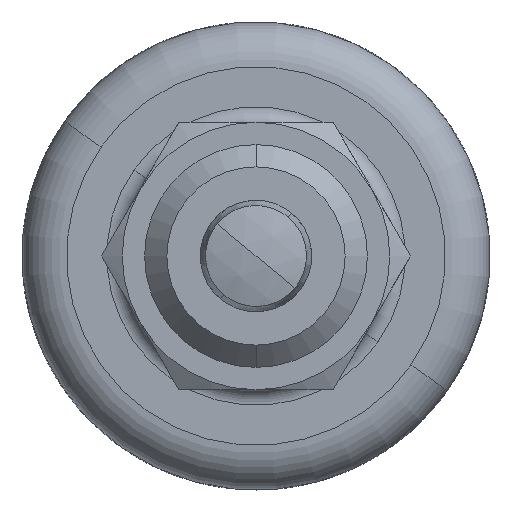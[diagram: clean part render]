
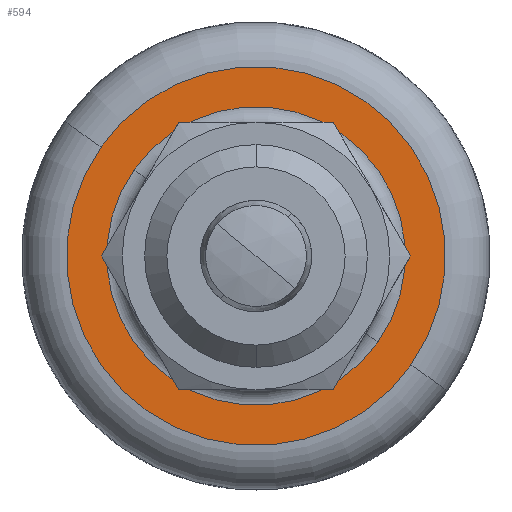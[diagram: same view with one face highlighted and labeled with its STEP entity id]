
A CAD part, front view. The second image highlights one B-rep face of the part: STEP entity #594.
In plain terms, the highlighted planar face has unit normal (0, -1, 0).
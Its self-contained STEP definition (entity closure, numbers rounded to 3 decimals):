
#279 = EDGE_CURVE ( 'NONE', #453, #526, #4507, .T. ) ;
#280 = ORIENTED_EDGE ( 'NONE', *, *, #525, .T. ) ;
#281 = ORIENTED_EDGE ( 'NONE', *, *, #279, .T. ) ;
#284 = EDGE_CURVE ( 'NONE', #530, #449, #4499, .T. ) ;
#448 = EDGE_CURVE ( 'NONE', #449, #530, #4828, .T. ) ;
#449 = VERTEX_POINT ( 'NONE', #4823 ) ;
#453 = VERTEX_POINT ( 'NONE', #4817 ) ;
#525 = EDGE_CURVE ( 'NONE', #526, #453, #4976, .T. ) ;
#526 = VERTEX_POINT ( 'NONE', #4971 ) ;
#530 = VERTEX_POINT ( 'NONE', #4968 ) ;
#594 = ADVANCED_FACE ( 'NONE', ( #5088, #5087 ), #5152, .T. ) ;
#595 = EDGE_LOOP ( 'NONE', ( #596, #597 ) ) ;
#596 = ORIENTED_EDGE ( 'NONE', *, *, #448, .T. ) ;
#597 = ORIENTED_EDGE ( 'NONE', *, *, #284, .T. ) ;
#598 = EDGE_LOOP ( 'NONE', ( #280, #281 ) ) ;
#4492 = DIRECTION ( 'NONE',  ( 1., 0., 0. ) ) ;
#4493 = DIRECTION ( 'NONE',  ( 0., -1., 0. ) ) ;
#4494 = CARTESIAN_POINT ( 'NONE',  ( 0., 12., 0. ) ) ;
#4495 = AXIS2_PLACEMENT_3D ( 'NONE', #4494, #4493, #4492 ) ;
#4499 = CIRCLE ( 'NONE', #4495, 8.5 ) ;
#4503 = DIRECTION ( 'NONE',  ( 1., 0., 0. ) ) ;
#4504 = DIRECTION ( 'NONE',  ( 0., 1., 0. ) ) ;
#4505 = CARTESIAN_POINT ( 'NONE',  ( 0., 12., 0. ) ) ;
#4506 = AXIS2_PLACEMENT_3D ( 'NONE', #4505, #4504, #4503 ) ;
#4507 = CIRCLE ( 'NONE', #4506, 6.7 ) ;
#4817 = CARTESIAN_POINT ( 'NONE',  ( -6.7, 12., 0. ) ) ;
#4823 = CARTESIAN_POINT ( 'NONE',  ( 8.5, 12., 0. ) ) ;
#4824 = DIRECTION ( 'NONE',  ( 1., 0., 0. ) ) ;
#4825 = DIRECTION ( 'NONE',  ( 0., -1., 0. ) ) ;
#4826 = CARTESIAN_POINT ( 'NONE',  ( 0., 12., 0. ) ) ;
#4827 = AXIS2_PLACEMENT_3D ( 'NONE', #4826, #4825, #4824 ) ;
#4828 = CIRCLE ( 'NONE', #4827, 8.5 ) ;
#4968 = CARTESIAN_POINT ( 'NONE',  ( -8.5, 12., 0. ) ) ;
#4971 = CARTESIAN_POINT ( 'NONE',  ( 6.7, 12., 0. ) ) ;
#4972 = DIRECTION ( 'NONE',  ( 1., 0., 0. ) ) ;
#4973 = DIRECTION ( 'NONE',  ( 0., 1., 0. ) ) ;
#4974 = CARTESIAN_POINT ( 'NONE',  ( 0., 12., 0. ) ) ;
#4975 = AXIS2_PLACEMENT_3D ( 'NONE', #4974, #4973, #4972 ) ;
#4976 = CIRCLE ( 'NONE', #4975, 6.7 ) ;
#5087 = FACE_BOUND ( 'NONE', #598, .T. ) ;
#5088 = FACE_OUTER_BOUND ( 'NONE', #595, .T. ) ;
#5148 = DIRECTION ( 'NONE',  ( 1., 0., 0. ) ) ;
#5149 = DIRECTION ( 'NONE',  ( 0., -1., 0. ) ) ;
#5150 = CARTESIAN_POINT ( 'NONE',  ( 0., 12., 0. ) ) ;
#5151 = AXIS2_PLACEMENT_3D ( 'NONE', #5150, #5149, #5148 ) ;
#5152 = PLANE ( 'NONE',  #5151 ) ;
